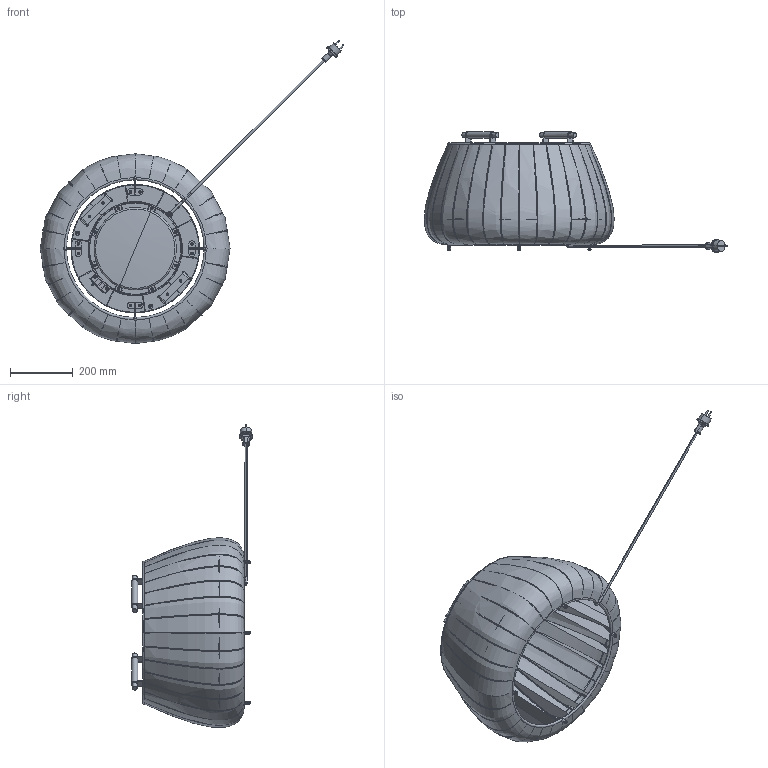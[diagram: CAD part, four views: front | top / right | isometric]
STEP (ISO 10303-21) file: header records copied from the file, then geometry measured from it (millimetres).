
FILE_DESCRIPTION (( 'STEP AP203' ), '1' );
FILE_NAME ('NANS BAG M-38 30931309xxx.STEP', '2023-08-03T07:42:45', ( '' ), ( '' ), 'SwSTEP 2.0', 'SolidWorks 2019', '' );
FILE_SCHEMA (( 'CONFIG_CONTROL_DESIGN' ));
Length unit declared in the file: millimetre
Products named in the file (29): 000-D7985-46A2; 000-380-varilla pie; 000-380_EMSAMBLAJE ASA; 378-409; 378-407; 000-380-020; 000-D934-M4A2; 000-380-027; 000-380_001B; 000-380-021; 000-SUB 380_004; D965-410A2; 000-380_300; 378-410; 000-D965-46-A2; CABLA NANS BAG; 000-380_003B_Predeterminado<Como mecanizada>; 000-D6798J-4.3A2; 378-412; NANS BAG M-38 30931309xxx; D965-412A2; 378-401; 378_413; 000-378-XXX PAQUETE OPTICO CV_CC; 914-052; 000-tejido sub 001b; 000-380-026; 908-024
Assembly tree (69 placements, depth 4):
  NANS BAG M-38 30931309xxx
    000-SUB 380_004
      000-380_001B
      000-380_003B_Predeterminado<Como mecanizada>  x4
      000-380-varilla pie  x4
    000-380_300  x4
    000-tejido sub 001b
    000-378-XXX PAQUETE OPTICO CV_CC
      378-410
      914-052
      378-409
      378-407
      378-412
      378-401
      D965-412A2  x8
      D965-410A2  x2
      378_413  x3
      000-380_EMSAMBLAJE ASA
        000-380-020
        000-380-021
        000-380-026
        000-380-027  x2
        000-D934-M4A2  x2
        000-D6798J-4.3A2  x2
        000-D7985-46A2  x2
      000-380_EMSAMBLAJE ASA
        000-380-020
        000-380-021
        000-380-026
        000-380-027  x2
        000-D934-M4A2  x2
        000-D6798J-4.3A2  x2
        000-D7985-46A2  x2
    000-D965-46-A2  x8
    CABLA NANS BAG
    908-024
Bounding box: 966.66 x 386.6 x 965.69 mm (x, y, z)
Volume: 1706997.5 mm3; surface area: 2284007 mm2
Topology: 73 solids, 78 shells, 3740 faces, 9354 edges, 5869 vertices
Faces by surface type: plane 1605, cylinder 1282, bspline 528, cone 199, torus 92, sphere 34
Entity records: 142939 total; most frequent: CARTESIAN_POINT 83757, ORIENTED_EDGE 12198, DIRECTION 10241, EDGE_CURVE 6105, VERTEX_POINT 3938, AXIS2_PLACEMENT_3D 3718, VECTOR 2805, LINE 2805
